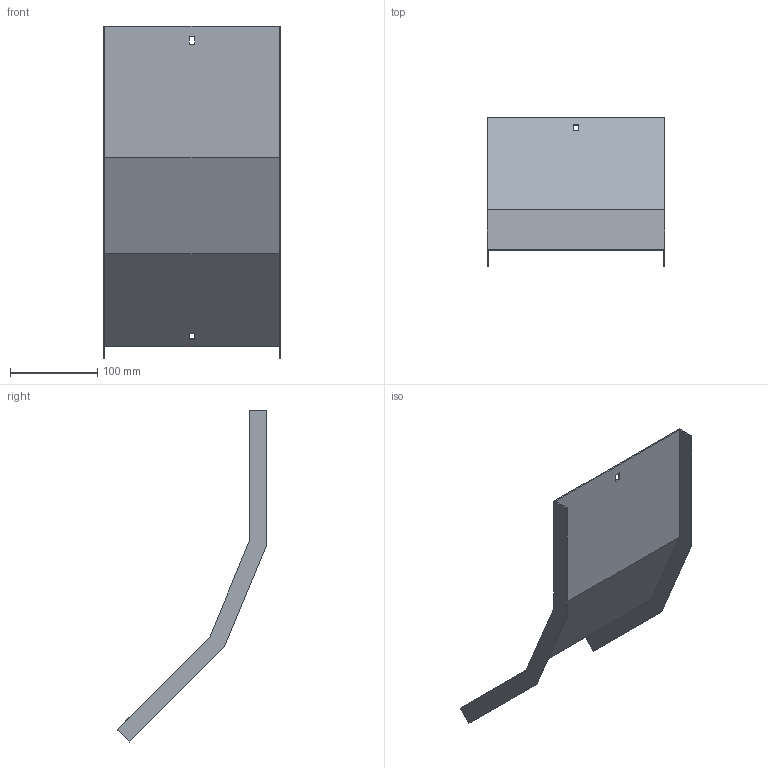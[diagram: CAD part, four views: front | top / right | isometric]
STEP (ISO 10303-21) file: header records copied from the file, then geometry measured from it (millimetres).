
FILE_DESCRIPTION (( 'STEP AP214' ), '1' );
FILE_NAME ('A2X31N3R200X.step', '2025-03-20T09:40:59', ( '' ), ( '' ), 'SwSTEP 2.0', 'SolidWorks 2023', '' );
FILE_SCHEMA (( 'AUTOMOTIVE_DESIGN' ));
Length unit declared in the file: millimetre
Products named in the file (1): A2X31N3R200X
Bounding box: 203 x 171.43 x 379.72 mm (x, y, z)
Volume: 151140.9 mm3; surface area: 203635.7 mm2
Topology: 1 solids, 1 shells, 26 faces, 72 edges, 48 vertices
Faces by surface type: plane 26
Entity records: 847 total; most frequent: CARTESIAN_POINT 147, ORIENTED_EDGE 144, DIRECTION 126, EDGE_CURVE 72, VECTOR 72, LINE 72, VERTEX_POINT 48, EDGE_LOOP 30
